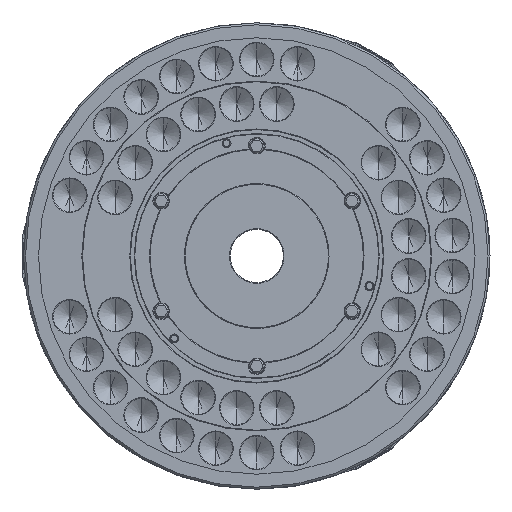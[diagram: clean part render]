
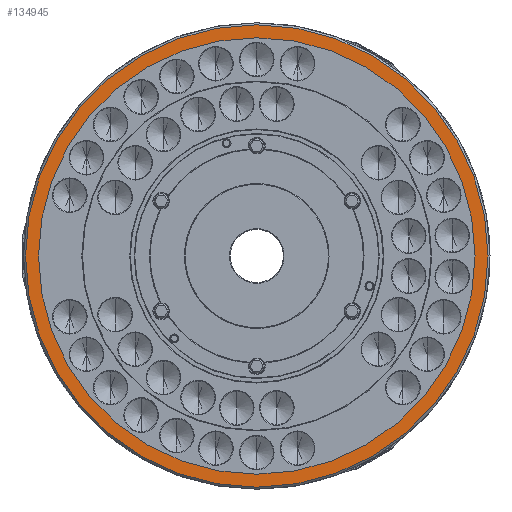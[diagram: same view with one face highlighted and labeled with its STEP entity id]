
A CAD part, left-side view. The second image highlights one B-rep face of the part: STEP entity #134945.
In plain terms, the highlighted planar face has unit normal (-1, 0, 0).
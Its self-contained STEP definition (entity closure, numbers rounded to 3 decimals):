
#2106 = AXIS2_PLACEMENT_3D ( 'NONE', #131666, #109953, #209562 ) ;
#10814 = EDGE_CURVE ( 'NONE', #170588, #125306, #252375, .T. ) ;
#26596 = AXIS2_PLACEMENT_3D ( 'NONE', #103007, #234723, #59653 ) ;
#31002 = EDGE_CURVE ( 'NONE', #233153, #178165, #66178, .T. ) ;
#45957 = CARTESIAN_POINT ( 'NONE',  ( -149., 0., 0. ) ) ;
#53752 = EDGE_CURVE ( 'NONE', #125306, #170588, #63443, .T. ) ;
#55760 = DIRECTION ( 'NONE',  ( 1., 0., 0. ) ) ;
#59653 = DIRECTION ( 'NONE',  ( 0., 0., 1. ) ) ;
#63443 = CIRCLE ( 'NONE', #2106, 327.5 ) ;
#66178 = CIRCLE ( 'NONE', #123298, 347. ) ;
#67439 = EDGE_CURVE ( 'NONE', #178165, #233153, #214365, .T. ) ;
#72296 = ORIENTED_EDGE ( 'NONE', *, *, #53752, .T. ) ;
#73396 = DIRECTION ( 'NONE',  ( 0., 0., -1. ) ) ;
#75443 = ORIENTED_EDGE ( 'NONE', *, *, #67439, .F. ) ;
#82603 = FACE_OUTER_BOUND ( 'NONE', #126206, .T. ) ;
#89358 = ORIENTED_EDGE ( 'NONE', *, *, #10814, .T. ) ;
#99149 = CARTESIAN_POINT ( 'NONE',  ( -149., 0., 0. ) ) ;
#103007 = CARTESIAN_POINT ( 'NONE',  ( -149., 347., 0. ) ) ;
#109953 = DIRECTION ( 'NONE',  ( 1., 0., 0. ) ) ;
#121957 = AXIS2_PLACEMENT_3D ( 'NONE', #99149, #55760, #177104 ) ;
#123298 = AXIS2_PLACEMENT_3D ( 'NONE', #249763, #247282, #73396 ) ;
#123893 = DIRECTION ( 'NONE',  ( 1., 0., 0. ) ) ;
#125306 = VERTEX_POINT ( 'NONE', #130752 ) ;
#126206 = EDGE_LOOP ( 'NONE', ( #198922, #75443 ) ) ;
#130752 = CARTESIAN_POINT ( 'NONE',  ( -149., 0., -327.5 ) ) ;
#131666 = CARTESIAN_POINT ( 'NONE',  ( -149., 0., 0. ) ) ;
#133307 = CARTESIAN_POINT ( 'NONE',  ( -149., 0., 327.5 ) ) ;
#134945 = ADVANCED_FACE ( 'NONE', ( #141408, #82603 ), #175894, .T. ) ;
#139588 = EDGE_LOOP ( 'NONE', ( #72296, #89358 ) ) ;
#141408 = FACE_BOUND ( 'NONE', #139588, .T. ) ;
#159715 = DIRECTION ( 'NONE',  ( 0., 0., -1. ) ) ;
#170588 = VERTEX_POINT ( 'NONE', #133307 ) ;
#175894 = PLANE ( 'NONE',  #26596 ) ;
#177104 = DIRECTION ( 'NONE',  ( 0., 0., -1. ) ) ;
#178165 = VERTEX_POINT ( 'NONE', #208830 ) ;
#193664 = CARTESIAN_POINT ( 'NONE',  ( -149., 0., -347. ) ) ;
#198922 = ORIENTED_EDGE ( 'NONE', *, *, #31002, .F. ) ;
#206122 = AXIS2_PLACEMENT_3D ( 'NONE', #45957, #123893, #159715 ) ;
#208830 = CARTESIAN_POINT ( 'NONE',  ( -149., 0., 347. ) ) ;
#209562 = DIRECTION ( 'NONE',  ( 0., 0., -1. ) ) ;
#214365 = CIRCLE ( 'NONE', #206122, 347. ) ;
#233153 = VERTEX_POINT ( 'NONE', #193664 ) ;
#234723 = DIRECTION ( 'NONE',  ( -1., 0., 0. ) ) ;
#247282 = DIRECTION ( 'NONE',  ( 1., 0., 0. ) ) ;
#249763 = CARTESIAN_POINT ( 'NONE',  ( -149., 0., 0. ) ) ;
#252375 = CIRCLE ( 'NONE', #121957, 327.5 ) ;
